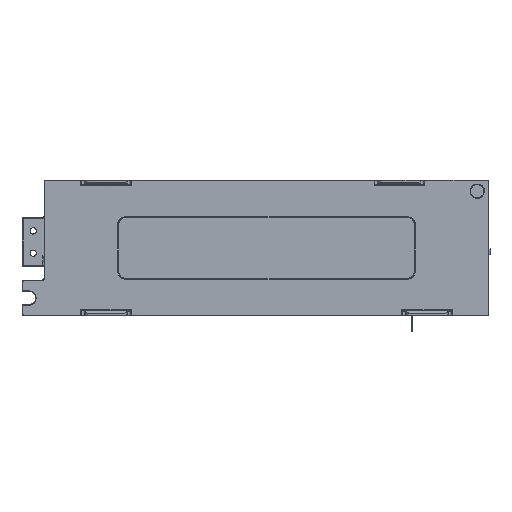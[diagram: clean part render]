
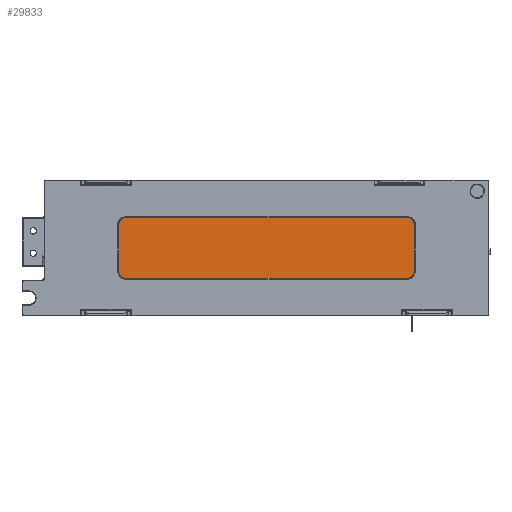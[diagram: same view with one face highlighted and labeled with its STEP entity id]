
A CAD part, front view. The second image highlights one B-rep face of the part: STEP entity #29833.
In plain terms, the highlighted planar face has unit normal (0, -1, 0).
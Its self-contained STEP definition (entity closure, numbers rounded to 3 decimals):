
#5024=(
BOUNDED_CURVE()
B_SPLINE_CURVE(2,(#250284,#250285,#250286),.UNSPECIFIED.,.F.,.F.)
B_SPLINE_CURVE_WITH_KNOTS((3,3),(0.,4.398),.UNSPECIFIED.)
CURVE()
GEOMETRIC_REPRESENTATION_ITEM()
RATIONAL_B_SPLINE_CURVE((1.,0.707,1.))
REPRESENTATION_ITEM('')
);
#5025=(
BOUNDED_CURVE()
B_SPLINE_CURVE(2,(#250289,#250290,#250291),.UNSPECIFIED.,.F.,.F.)
B_SPLINE_CURVE_WITH_KNOTS((3,3),(0.,4.398),.UNSPECIFIED.)
CURVE()
GEOMETRIC_REPRESENTATION_ITEM()
RATIONAL_B_SPLINE_CURVE((1.,0.707,1.))
REPRESENTATION_ITEM('')
);
#5026=(
BOUNDED_CURVE()
B_SPLINE_CURVE(2,(#250294,#250295,#250296),.UNSPECIFIED.,.F.,.F.)
B_SPLINE_CURVE_WITH_KNOTS((3,3),(0.,4.398),.UNSPECIFIED.)
CURVE()
GEOMETRIC_REPRESENTATION_ITEM()
RATIONAL_B_SPLINE_CURVE((1.,0.707,1.))
REPRESENTATION_ITEM('')
);
#5027=(
BOUNDED_CURVE()
B_SPLINE_CURVE(2,(#250299,#250300,#250301),.UNSPECIFIED.,.F.,.F.)
B_SPLINE_CURVE_WITH_KNOTS((3,3),(0.,4.398),.UNSPECIFIED.)
CURVE()
GEOMETRIC_REPRESENTATION_ITEM()
RATIONAL_B_SPLINE_CURVE((1.,0.707,1.))
REPRESENTATION_ITEM('')
);
#29833=ADVANCED_FACE('',(#36379),#175976,.T.);
#36379=FACE_OUTER_BOUND('',#43074,.T.);
#43074=EDGE_LOOP('',(#59188,#59189,#59190,#59191,#59192,#59193,#59194,#59195));
#59188=ORIENTED_EDGE('',*,*,#92046,.T.);
#59189=ORIENTED_EDGE('',*,*,#92047,.T.);
#59190=ORIENTED_EDGE('',*,*,#92048,.T.);
#59191=ORIENTED_EDGE('',*,*,#92049,.T.);
#59192=ORIENTED_EDGE('',*,*,#92050,.T.);
#59193=ORIENTED_EDGE('',*,*,#92051,.T.);
#59194=ORIENTED_EDGE('',*,*,#92052,.T.);
#59195=ORIENTED_EDGE('',*,*,#92053,.T.);
#92046=EDGE_CURVE('',#152805,#152806,#5024,.T.);
#92047=EDGE_CURVE('',#152806,#152807,#122921,.T.);
#92048=EDGE_CURVE('',#152807,#152808,#5025,.T.);
#92049=EDGE_CURVE('',#152808,#152809,#122922,.T.);
#92050=EDGE_CURVE('',#152809,#152810,#5026,.T.);
#92051=EDGE_CURVE('',#152810,#152811,#122923,.T.);
#92052=EDGE_CURVE('',#152811,#152812,#5027,.T.);
#92053=EDGE_CURVE('',#152812,#152805,#122924,.T.);
#122921=B_SPLINE_CURVE_WITH_KNOTS('',1,(#250287,#250288),.UNSPECIFIED.,
 .F.,.F.,(2,2),(-19.,0.),.UNSPECIFIED.);
#122922=B_SPLINE_CURVE_WITH_KNOTS('',1,(#250292,#250293),.UNSPECIFIED.,
 .F.,.F.,(2,2),(-114.,0.),.UNSPECIFIED.);
#122923=B_SPLINE_CURVE_WITH_KNOTS('',1,(#250297,#250298),.UNSPECIFIED.,
 .F.,.F.,(2,2),(-19.,0.),.UNSPECIFIED.);
#122924=B_SPLINE_CURVE_WITH_KNOTS('',1,(#250302,#250303),.UNSPECIFIED.,
 .F.,.F.,(2,2),(0.,114.),.UNSPECIFIED.);
#152805=VERTEX_POINT('',#250276);
#152806=VERTEX_POINT('',#250277);
#152807=VERTEX_POINT('',#250278);
#152808=VERTEX_POINT('',#250279);
#152809=VERTEX_POINT('',#250280);
#152810=VERTEX_POINT('',#250281);
#152811=VERTEX_POINT('',#250282);
#152812=VERTEX_POINT('',#250283);
#175976=PLANE('',#180236);
#180236=AXIS2_PLACEMENT_3D('',#250275,#184479,$);
#184479=DIRECTION('',(0.,-1.,0.));
#250275=CARTESIAN_POINT('',(-65.778,-89.698,5.722));
#250276=CARTESIAN_POINT('',(63.,-89.698,8.2));
#250277=CARTESIAN_POINT('',(65.8,-89.698,11.));
#250278=CARTESIAN_POINT('',(65.8,-89.698,30.));
#250279=CARTESIAN_POINT('',(63.,-89.698,32.8));
#250280=CARTESIAN_POINT('',(-51.,-89.698,32.8));
#250281=CARTESIAN_POINT('',(-53.8,-89.698,30.));
#250282=CARTESIAN_POINT('',(-53.8,-89.698,11.));
#250283=CARTESIAN_POINT('',(-51.,-89.698,8.2));
#250284=CARTESIAN_POINT('',(63.,-89.698,8.2));
#250285=CARTESIAN_POINT('',(65.8,-89.698,8.2));
#250286=CARTESIAN_POINT('',(65.8,-89.698,11.));
#250287=CARTESIAN_POINT('',(65.8,-89.698,11.));
#250288=CARTESIAN_POINT('',(65.8,-89.698,30.));
#250289=CARTESIAN_POINT('',(65.8,-89.698,30.));
#250290=CARTESIAN_POINT('',(65.8,-89.698,32.8));
#250291=CARTESIAN_POINT('',(63.,-89.698,32.8));
#250292=CARTESIAN_POINT('',(63.,-89.698,32.8));
#250293=CARTESIAN_POINT('',(-51.,-89.698,32.8));
#250294=CARTESIAN_POINT('',(-51.,-89.698,32.8));
#250295=CARTESIAN_POINT('',(-53.8,-89.698,32.8));
#250296=CARTESIAN_POINT('',(-53.8,-89.698,30.));
#250297=CARTESIAN_POINT('',(-53.8,-89.698,30.));
#250298=CARTESIAN_POINT('',(-53.8,-89.698,11.));
#250299=CARTESIAN_POINT('',(-53.8,-89.698,11.));
#250300=CARTESIAN_POINT('',(-53.8,-89.698,8.2));
#250301=CARTESIAN_POINT('',(-51.,-89.698,8.2));
#250302=CARTESIAN_POINT('',(-51.,-89.698,8.2));
#250303=CARTESIAN_POINT('',(63.,-89.698,8.2));
